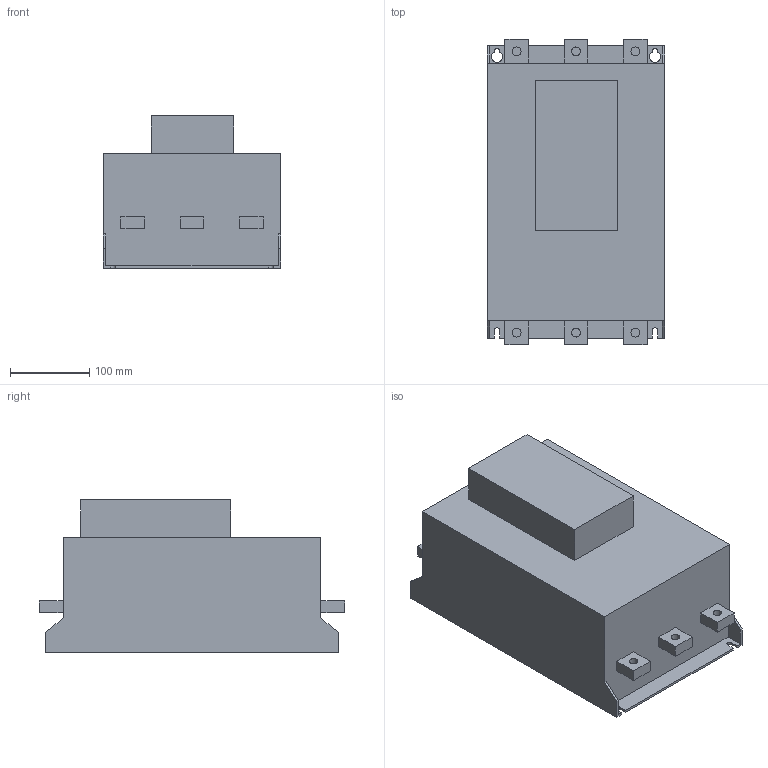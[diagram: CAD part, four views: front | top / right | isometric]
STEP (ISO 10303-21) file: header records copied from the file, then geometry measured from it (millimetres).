
FILE_DESCRIPTION(/* description */ (''),/* implementation_level */ '2;1');
FILE_NAME(/* name */ 'O:\БЭМ\Personal\Абрамов\262-20-1 ТП Драчево\3D Inventor\MCD1\MCD5 F3.stp',/* time_stamp */ '2023-10-12T05:56:55+03:00',/* author */ ('a.abramov'),/* organization */ (''),/* preprocessor_version */ 'ST-DEVELOPER v18.1',/* originating_system */ 'Autodesk Inventor 2022',/* authorisation */ '');
FILE_SCHEMA (('AUTOMOTIVE_DESIGN { 1 0 10303 214 3 1 1 }'));
Length unit declared in the file: millimetre
Products named in the file (1): MCD5 F2
Bounding box: 224 x 386 x 193 mm (x, y, z)
Volume: 11649906.1 mm3; surface area: 376696.2 mm2
Topology: 1 solids, 1 shells, 71 faces, 186 edges, 124 vertices
Faces by surface type: plane 59, cylinder 12
Full cylindrical faces by diameter (mm): 11 x6
Entity records: 2237 total; most frequent: CARTESIAN_POINT 382, ORIENTED_EDGE 372, DIRECTION 354, EDGE_CURVE 186, LINE 162, VECTOR 162, VERTEX_POINT 124, AXIS2_PLACEMENT_3D 96
